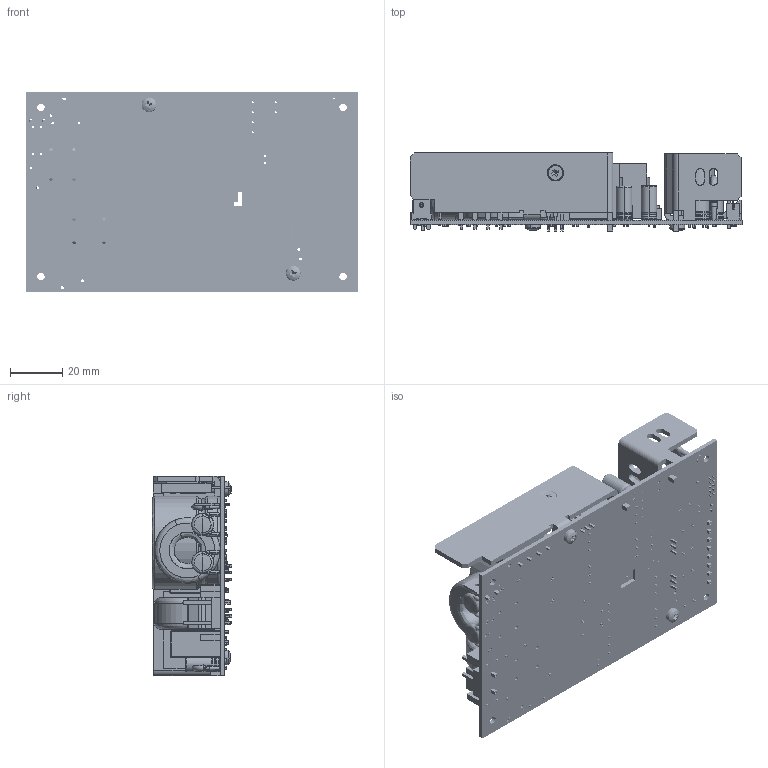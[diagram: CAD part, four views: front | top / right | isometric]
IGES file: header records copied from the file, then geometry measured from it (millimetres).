
Start section: SolidWorks IGES file using analytic representation for surfaces
Global section: file name: C:\Documents and Settings\behzar\Desktop\BEHZAR\PROJECTS\CURRENT-2010\SW-MODELS\WORKING\CLC175US12-48-M-MA.IGS; native system: SolidWorks 2010; preprocessor: SolidWorks 2010; author: BEHZAR; date: 100617.151429; units: inch
Bounding box: 127 x 30.51 x 76.2 mm (x, y, z)
Surface area: 69942.7 mm2 (no closed solid volume)
Topology: 0 solids, 0 shells, 2216 faces, 22668 edges, 22634 vertices
Faces by surface type: bspline 1355, revolution 861
